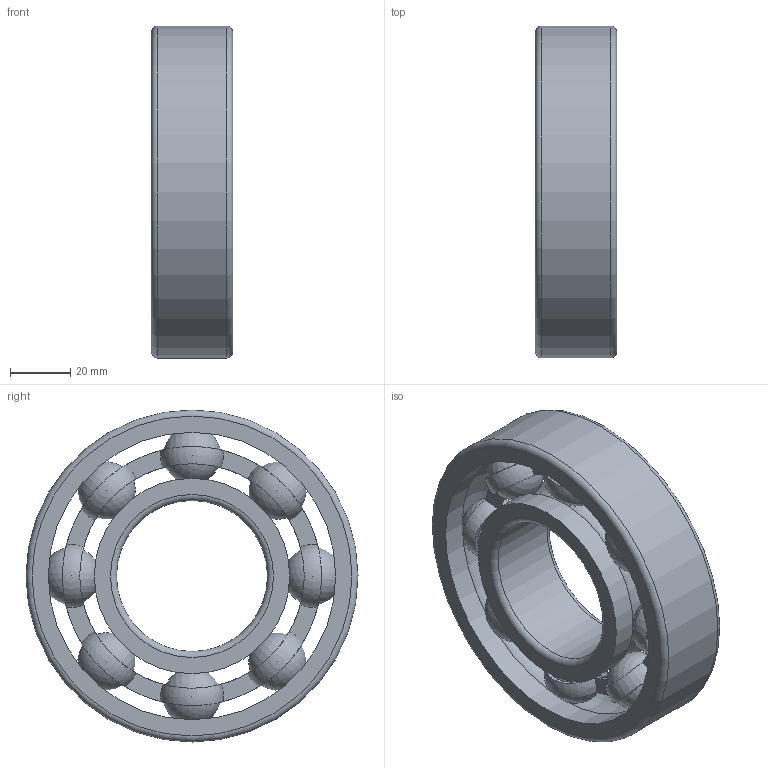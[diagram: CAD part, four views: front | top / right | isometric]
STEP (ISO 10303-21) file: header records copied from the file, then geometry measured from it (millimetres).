
FILE_DESCRIPTION(/* description */ (''),/* implementation_level */ '2;1');
FILE_NAME(/* name */ 'D:\moje\parametrické\63--\rada63--\63--\6310.stp',/* time_stamp */ '2016-02-12T13:00:10+01:00',/* author */ ('OUBALASKO'),/* organization */ (''),/* preprocessor_version */ 'ST-DEVELOPER v15.2',/* originating_system */ 'Autodesk Inventor 2014',/* authorisation */ '');
FILE_SCHEMA (('AUTOMOTIVE_DESIGN { 1 0 10303 214 3 1 1 }'));
Length unit declared in the file: millimetre
Products named in the file (5): 6310-02; 6310-ball; 6310-cage; 6310-01; 6310
Bounding box: 27 x 110 x 110 mm (x, y, z)
Volume: 124475.5 mm3; surface area: 52267.1 mm2
Topology: 12 solids, 12 shells, 92 faces, 348 edges, 228 vertices
Faces by surface type: sphere 40, plane 36, cylinder 10, torus 6
Full cylindrical faces by diameter (mm): 50 x1, 64.76 x2, 74.285 x2, 85.715 x2, 95.24 x2, 110 x1
Entity records: 2272 total; most frequent: CARTESIAN_POINT 935, DIRECTION 298, ORIENTED_EDGE 226, AXIS2_PLACEMENT_3D 149, EDGE_CURVE 113, VERTEX_POINT 82, CIRCLE 81, EDGE_LOOP 69
